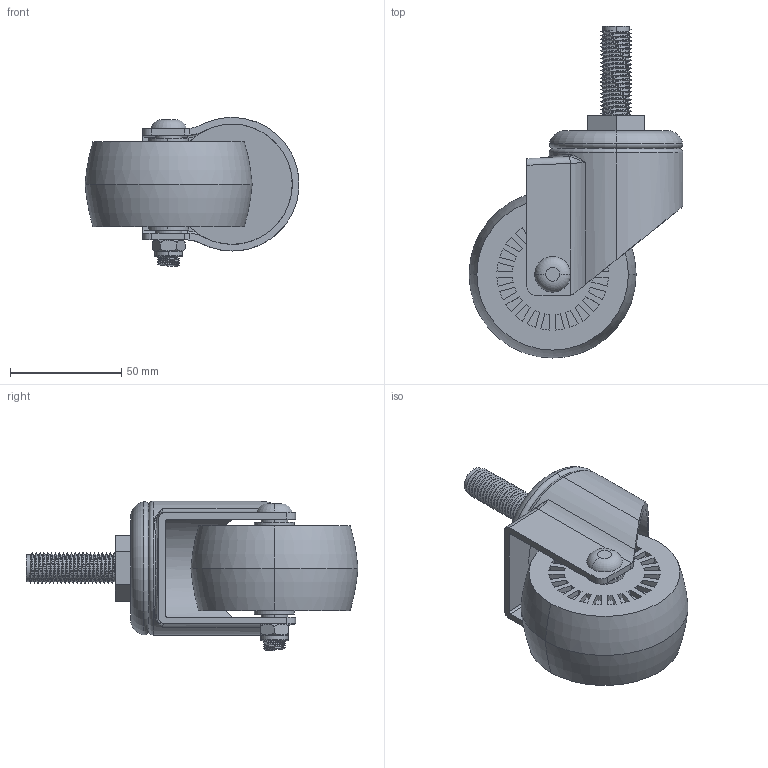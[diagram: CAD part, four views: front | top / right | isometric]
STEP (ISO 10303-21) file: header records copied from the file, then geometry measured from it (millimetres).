
FILE_DESCRIPTION (( 'STEP AP203' ), '1' );
FILE_NAME ('3JP16A.STEP', '2018-01-26T05:25:57', ( '' ), ( '' ), 'SwSTEP 2.0', 'SolidWorks 2014', '' );
FILE_SCHEMA (( 'CONFIG_CONTROL_DESIGN' ));
Length unit declared in the file: millimetre
Products named in the file (8): 螺帽M8; 螺絲M8X65; 牙式底盤美國40; 套管; 3JP16A; 輪-美國3; O ring; 活動架美國-3
Assembly tree (8 placements, depth 2):
  3JP16A
    活動架美國-3
    套管
    輪-美國3
    螺帽M8
    螺絲M8X65
    O ring  x2
    牙式底盤美國40
Bounding box: 96 x 149 x 67 mm (x, y, z)
Volume: 216856.8 mm3; surface area: 60443.6 mm2
Topology: 8 solids, 8 shells, 426 faces, 1056 edges, 698 vertices
Faces by surface type: cylinder 199, plane 192, torus 20, bspline 15
Full cylindrical faces by diameter (mm): 8 x10
Entity records: 18834 total; most frequent: CARTESIAN_POINT 8114, ORIENTED_EDGE 2122, DIRECTION 1998, EDGE_CURVE 1061, AXIS2_PLACEMENT_3D 725, VERTEX_POINT 710, VECTOR 548, LINE 548
